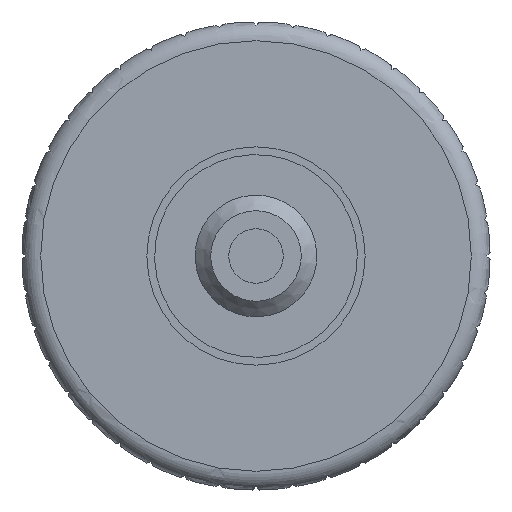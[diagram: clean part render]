
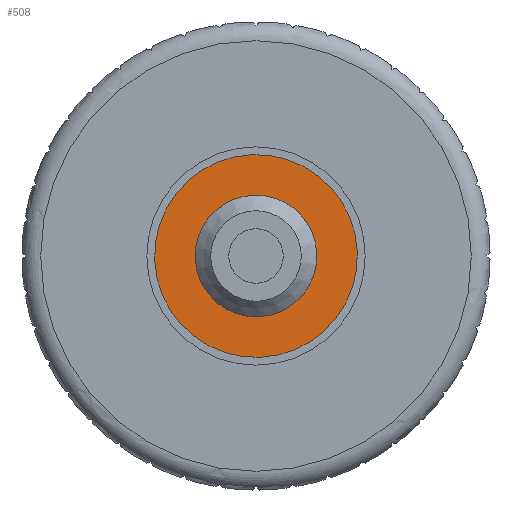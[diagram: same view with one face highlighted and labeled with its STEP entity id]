
A CAD part, left-side view. The second image highlights one B-rep face of the part: STEP entity #508.
In plain terms, the highlighted planar face has unit normal (-1, 0, 0).
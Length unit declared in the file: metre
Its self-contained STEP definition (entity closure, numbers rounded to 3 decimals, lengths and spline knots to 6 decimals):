
#508 = ADVANCED_FACE( '', ( #1057, #1058 ), #1059, .T. );
#1057 = FACE_OUTER_BOUND( '', #1665, .T. );
#1058 = FACE_BOUND( '', #1666, .T. );
#1059 = PLANE( '', #1667 );
#1665 = EDGE_LOOP( '', ( #3159 ) );
#1666 = EDGE_LOOP( '', ( #3160 ) );
#1667 = AXIS2_PLACEMENT_3D( '', #3161, #3162, #3163 );
#3159 = ORIENTED_EDGE( '', *, *, #4326, .T. );
#3160 = ORIENTED_EDGE( '', *, *, #4237, .F. );
#3161 = CARTESIAN_POINT( '', ( -0.0938, -0.003175, 0.000696 ) );
#3162 = DIRECTION( '', ( -1., 0., 0. ) );
#3163 = DIRECTION( '', ( 0., -0.977, 0.214 ) );
#4237 = EDGE_CURVE( '', #5997, #5997, #5998, .T. );
#4326 = EDGE_CURVE( '', #6155, #6155, #6156, .T. );
#5997 = VERTEX_POINT( '', #9220 );
#5998 = CIRCLE( '', #9221, 0.00195 );
#6155 = VERTEX_POINT( '', #9466 );
#6156 = CIRCLE( '', #9467, 0.00325 );
#9220 = CARTESIAN_POINT( '', ( -0.0938, -0.001905, 0.000418 ) );
#9221 = AXIS2_PLACEMENT_3D( '', #10908, #10909, #10910 );
#9466 = CARTESIAN_POINT( '', ( -0.0938, -0.003175, 0.000696 ) );
#9467 = AXIS2_PLACEMENT_3D( '', #10993, #10994, #10995 );
#10908 = CARTESIAN_POINT( '', ( -0.0938, 0., 0. ) );
#10909 = DIRECTION( '', ( -1., 0., 0. ) );
#10910 = DIRECTION( '', ( 0., -0.977, 0.214 ) );
#10993 = CARTESIAN_POINT( '', ( -0.0938, 0., 0. ) );
#10994 = DIRECTION( '', ( -1., 0., 0. ) );
#10995 = DIRECTION( '', ( 0., -0.977, 0.214 ) );
